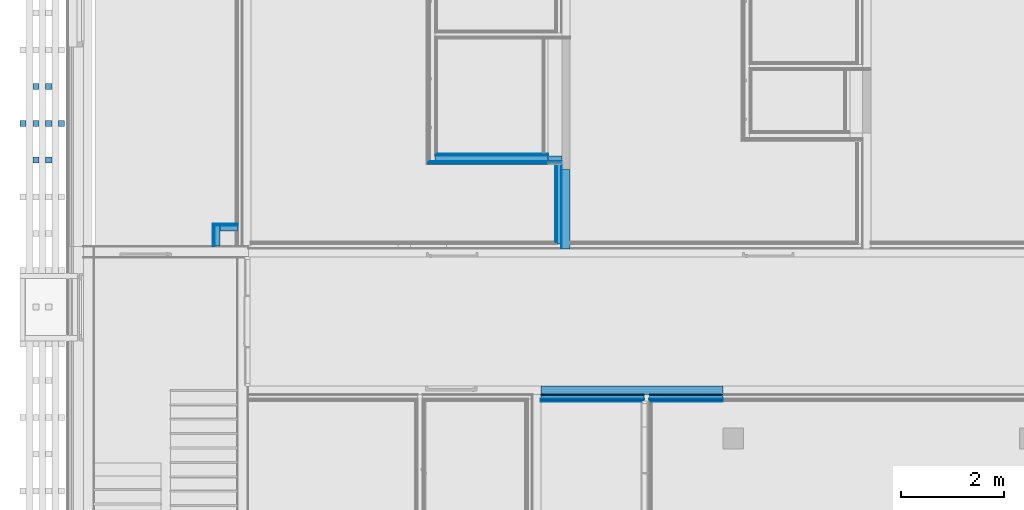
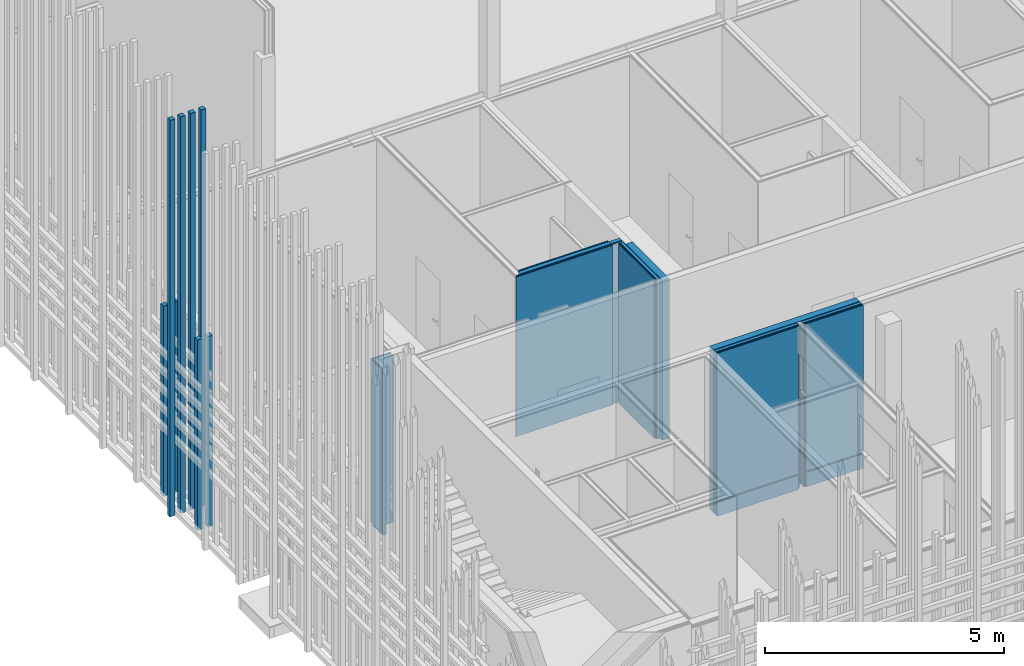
# One storey, part 158 of 260: 33 building element parts, 3 discrete accessories, 6 elements without a shape of their own.
"""IFC2X3 building model written with IfcOpenShell, lengths in millimetres."""

from ifc_helpers import new_model, entity, si_unit, converted_unit, derived_unit, money_unit, direction, frame, origin_with_axes, place, context, subcontext, project, spatial, faceted_brep, material, material_list, type_object, element, aggregate, save


model = new_model("IFC2X3")

# Units and contexts
model_context = context("Model", 3, precision=0.01, world=origin_with_axes(), true_north=direction((0.0, 1.0)))
body_context = subcontext(model_context, "Body", "Model", "MODEL_VIEW")
ifc_project = project(units=[si_unit("LENGTHUNIT", "METRE", prefix="MILLI"), si_unit("AREAUNIT", "SQUARE_METRE"), si_unit("VOLUMEUNIT", "CUBIC_METRE"), converted_unit("PLANEANGLEUNIT", "DEGREE", entity("IfcPlaneAngleMeasure", 0.0174532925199), si_unit("PLANEANGLEUNIT", "RADIAN"), dimensions=[0, 0, 0, 0, 0, 0, 0]), money_unit("EUR"), converted_unit("TIMEUNIT", "Year", entity("IfcTimeMeasure", 31556926.0), si_unit("TIMEUNIT", "SECOND"), dimensions=[0, 0, 1, 0, 0, 0, 0]), si_unit("MASSUNIT", "GRAM", prefix="KILO"), si_unit("THERMODYNAMICTEMPERATUREUNIT", "DEGREE_CELSIUS"), si_unit("LUMINOUSINTENSITYUNIT", "LUMEN"), si_unit("ENERGYUNIT", "JOULE", prefix="MEGA"), derived_unit("THERMALCONDUCTANCEUNIT", [(si_unit("POWERUNIT", "WATT"), 1), (si_unit("LENGTHUNIT", "METRE"), -1), (si_unit("THERMODYNAMICTEMPERATUREUNIT", "KELVIN"), -1)]), derived_unit("SPECIFICHEATCAPACITYUNIT", [(si_unit("ENERGYUNIT", "JOULE"), 1), (si_unit("MASSUNIT", "GRAM", prefix="KILO"), -1), (si_unit("THERMODYNAMICTEMPERATUREUNIT", "KELVIN"), -1)]), derived_unit("MASSDENSITYUNIT", [(si_unit("MASSUNIT", "GRAM", prefix="KILO"), 1), (si_unit("VOLUMEUNIT", "CUBIC_METRE"), -1)])], contexts=[model_context])

# Site, building, storey
site_placement = place(None, origin_with_axes())
site = spatial("IfcSite", under=ifc_project, at=site_placement, Name="Kolde pst 67a", CompositionType="ELEMENT")
building_placement = place(site_placement, origin_with_axes())
building = spatial("IfcBuilding", under=site, at=building_placement, Name="Riigigümnaasium", CompositionType="ELEMENT")
storey_placement = place(building_placement, origin_with_axes())
storey = spatial("IfcBuildingStorey", under=building, at=storey_placement, Name="1. korrus", CompositionType="ELEMENT", Elevation=0.0)

# Discrete accessories
ifc_material_1 = material(Name="_VÄLISVIIMISTLUS - sõrmjätkatud puitprussid 120x115mm, liitekohad vähemärgatavad, Platowood sõrmjätkatud kuusk või samaväärne; eeltöödeldud tuletõkkevõõbaga, tuletundlikkus B-s1, d0, Woodsafe Exterior WFX™ või samaväärne; kinnitused vastavalt EK osale")
ifc_material_list_1 = material_list([ifc_material_1, ifc_material_1, ifc_material_1, ifc_material_1])
discrete_accessory_type_1 = type_object("IfcDiscreteAccessoryType", Name="120 4-ne vertikaalne 870 x 115")
discrete_accessory_placement = place(storey_placement, frame((-310.003213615, 61962.2222772, 280.0), z_axis=(0.0, 0.0, 1.0), x_axis=(0.999999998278, -5.86859191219e-05, 0.0)))
element("IfcDiscreteAccessory", 1, at=discrete_accessory_placement, inside=storey, type_object=discrete_accessory_type_1, material=ifc_material_list_1, Name="Päikesevarjestus", context=body_context, shape_type="Brep", body=[
    faceted_brep([(-133.0, -70.0, 0.0), (-13.0, -70.0, 0.0), (-13.0, -70.0, 10140.0), (-133.0, -70.0, 10140.0), (-133.0, 45.0, 0.0), (-13.0, 45.0, 0.0), (-13.0, 45.0, 10140.0), (-133.0, 45.0, 10140.0)], [[[0, 1, 2, 3]], [[0, 4, 5, 1]], [[1, 5, 6, 2]], [[3, 2, 6, 7]], [[4, 0, 3, 7]], [[5, 4, 7, 6]]]),
    faceted_brep([(-383.0, -70.0, 0.0), (-263.0, -70.0, 0.0), (-263.0, -70.0, 10140.0), (-383.0, -70.0, 10140.0), (-383.0, 45.0, 0.0), (-263.0, 45.0, 0.0), (-263.0, 45.0, 10140.0), (-383.0, 45.0, 10140.0)], [[[0, 1, 2, 3]], [[0, 4, 5, 1]], [[1, 5, 6, 2]], [[3, 2, 6, 7]], [[4, 0, 3, 7]], [[5, 4, 7, 6]]]),
    faceted_brep([(-633.0, -70.0, 0.0), (-513.0, -70.0, 0.0), (-513.0, -70.0, 10140.0), (-633.0, -70.0, 10140.0), (-633.0, 45.0, 0.0), (-513.0, 45.0, 0.0), (-513.0, 45.0, 10140.0), (-633.0, 45.0, 10140.0)], [[[0, 1, 2, 3]], [[0, 4, 5, 1]], [[1, 5, 6, 2]], [[3, 2, 6, 7]], [[4, 0, 3, 7]], [[5, 4, 7, 6]]]),
    faceted_brep([(-883.0, -70.0, 0.0), (-763.0, -70.0, 0.0), (-763.0, -70.0, 10140.0), (-883.0, -70.0, 10140.0), (-883.0, 45.0, 0.0), (-763.0, 45.0, 0.0), (-763.0, 45.0, 10140.0), (-883.0, 45.0, 10140.0)], [[[0, 1, 2, 3]], [[0, 4, 5, 1]], [[1, 5, 6, 2]], [[3, 2, 6, 7]], [[4, 0, 3, 7]], [[5, 4, 7, 6]]]),
])
ifc_material_list_2 = material_list([ifc_material_1, ifc_material_1])
discrete_accessory_type_2 = type_object("IfcDiscreteAccessoryType", Name="1+paiksekaitse 3 370 x 115")
for number, where, z_axis, x_axis in (
    (2, (-1290.00746728, 62604.7585658, 280.0), (0.0, 0.0, 1.0), (1.0, 0.0, 0.0)),
    (3, (-1290.00746728, 61174.7585658, 280.0), (0.0, 0.0, 1.0), (1.0, 0.0, 0.0)),
):
    element("IfcDiscreteAccessory", number, at=place(storey_placement, frame(where, z_axis=z_axis, x_axis=x_axis)), inside=storey, type_object=discrete_accessory_type_2, material=ifc_material_list_2, Name="Päikesevarjestus", context=body_context, shape_type="Brep", body=[
        faceted_brep([(467.0, 117.5, 0.0), (347.0, 117.5, 0.0), (347.0, 117.5, 4870.00014213), (467.0, 117.5, 4870.00014213), (467.0, 2.5, 0.0), (347.0, 2.5, 0.0), (347.0, 2.5, 4870.00014213), (467.0, 2.5, 4870.00014213)], [[[0, 1, 2, 3]], [[0, 4, 5, 1]], [[1, 5, 6, 2]], [[3, 2, 6, 7]], [[4, 0, 3, 7]], [[5, 4, 7, 6]]]),
        faceted_brep([(717.0, 117.5, 0.0), (597.0, 117.5, 0.0), (597.0, 117.5, 4870.00014213), (717.0, 117.5, 4870.00014213), (717.0, 2.5, 0.0), (597.0, 2.5, 0.0), (597.0, 2.5, 4870.00014213), (717.0, 2.5, 4870.00014213)], [[[0, 1, 2, 3]], [[0, 4, 5, 1]], [[1, 5, 6, 2]], [[3, 2, 6, 7]], [[4, 0, 3, 7]], [[5, 4, 7, 6]]]),
    ])

# Wall, building element parts
wall_type_1 = type_object("IfcWallType", Name="SS-PK-10/2_vill100+dold+plaat 200", PredefinedType="NOTDEFINED")
wall_1_placement = place(storey_placement, frame((6923.47581967, 61355.5403605, 0.0), z_axis=(0.0, 0.0, 1.0), x_axis=(1.0, 0.0, 0.0)))
wall_1 = element("IfcWall", 4, at=wall_1_placement, inside=storey, type_object=wall_type_1, Name="Sisesein")
ifc_material_2 = material(Name="_VIIMISTLUSKIHT - viimistlus vastavalt SA osale")
building_element_part_1_placement = place(wall_1_placement, origin_with_axes())
building_element_part_1 = element("IfcBuildingElementPart", 5, at=building_element_part_1_placement, material=ifc_material_2, Name="_VIIMISTLUSKIHT - viimistlus vastavalt SA osale", context=body_context, shape_type="Brep", body=[
    faceted_brep([(0.0, 0.0, 4080.0), (2158.01244268, 0.0, 4080.0), (2158.01244268, 0.0, 3340.0), (2067.01244268, 0.0, 3340.0), (2067.01244268, 0.0, 0.0), (0.0, 0.0, 0.0), (2158.01244268, -15.0, 4080.0), (-2.5322979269e-06, -15.0, 4080.0), (2158.01244268, -15.0, 3340.0), (2067.01244268, -15.0, 3340.0), (2067.01244268, -15.0, 0.0), (-2.5322979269e-06, -15.0, 0.0)], [[[0, 1, 2, 3, 4, 5]], [[6, 1, 0, 7]], [[1, 6, 8, 2]], [[2, 8, 9, 3]], [[10, 4, 3, 9]], [[5, 4, 10, 11]], [[7, 0, 5, 11]], [[6, 7, 11, 10, 9, 8]]]),
])
ifc_material_3 = material(Name="_PLAATMATERJAL - kipsplaat veekindel")
building_element_part_2_placement = place(wall_1_placement, origin_with_axes())
building_element_part_2 = element("IfcBuildingElementPart", 6, at=building_element_part_2_placement, material=ifc_material_3, Name="_PLAATMATERJAL - kipsplaat veekindel", context=body_context, shape_type="Brep", body=[
    faceted_brep([(-15.0000025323, -15.0, 4080.0), (2158.01244268, -15.0, 4080.0), (2158.01244268, -15.0, 3340.0), (2079.51244268, -15.0, 3340.0), (2079.51244268, -15.0, 0.0), (-15.0000025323, -15.0, 0.0), (2158.01244268, -27.5, 4080.0), (-15.0000046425, -27.5, 4080.0), (2158.01244268, -27.5, 3340.0), (2079.51244268, -27.5, 3340.0), (2079.51244268, -27.5, 0.0), (-15.0000046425, -27.5, 0.0)], [[[0, 1, 2, 3, 4, 5]], [[6, 1, 0, 7]], [[1, 6, 8, 2]], [[2, 8, 9, 3]], [[10, 4, 3, 9]], [[5, 4, 10, 11]], [[7, 0, 5, 11]], [[6, 7, 11, 10, 9, 8]]]),
])
building_element_part_3_placement = place(wall_1_placement, origin_with_axes())
building_element_part_3 = element("IfcBuildingElementPart", 7, at=building_element_part_3_placement, material=ifc_material_3, Name="_PLAATMATERJAL - kipsplaat veekindel", context=body_context, shape_type="Brep", body=[
    faceted_brep([(-27.5000046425, -27.5, 4080.0), (2158.01244268, -27.5, 4080.0), (2158.01244268, -27.5, 3340.0), (2092.01244268, -27.5, 3340.0), (2092.01244268, -27.5, 0.0), (-27.5000046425, -27.5, 0.0), (2158.01244268, -40.0, 4080.0), (-27.5000067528, -40.0, 4080.0), (2158.01244268, -40.0, 3340.0), (2092.01244268, -40.0, 3340.0), (2092.01244268, -40.0, 0.0), (-27.5000067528, -40.0, 0.0)], [[[0, 1, 2, 3, 4, 5]], [[6, 1, 0, 7]], [[1, 6, 8, 2]], [[9, 3, 2, 8]], [[10, 4, 3, 9]], [[5, 4, 10, 11]], [[7, 0, 5, 11]], [[6, 7, 11, 10, 9, 8]]]),
])
ifc_material_4 = material(Name="_KARKASS - puitpruss 100x50mm vertikaalne, samm 600mm, vahel mineraalvill, helineeldetegur αw = 1.0, ISOVER ACOUSTIC 100mm või samaväärne")
building_element_part_4_placement = place(wall_1_placement, origin_with_axes())
building_element_part_4 = element("IfcBuildingElementPart", 8, at=building_element_part_4_placement, material=ifc_material_4, Name="_KARKASS - puitpruss 100x50mm vertikaalne, samm 600mm, vahel mineraalvill, helineeldetegur αw = 1.0, ISOVER ACOUSTIC 100mm või samaväärne", context=body_context, shape_type="Brep", body=[
    faceted_brep([(-40.0000067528, -40.0, 4080.0), (2158.01244268, -40.0, 4080.0), (2158.01244268, -40.0, 0.0), (-40.0000067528, -40.0, 0.0), (2158.01244268, -140.0, 4080.0), (-40.0000236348, -140.0, 4080.0), (2158.01244268, -140.0, 0.0), (-40.0000236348, -140.0, 0.0)], [[[0, 1, 2, 3]], [[4, 1, 0, 5]], [[1, 4, 6, 2]], [[3, 2, 6, 7]], [[5, 0, 3, 7]], [[4, 5, 7, 6]]]),
])
ifc_material_5 = material(Name="_PLAATMATERJAL - tuletõkkekipsplaat, Knauf Red GKF või samaväärne")
building_element_part_5_placement = place(wall_1_placement, origin_with_axes())
building_element_part_5 = element("IfcBuildingElementPart", 9, at=building_element_part_5_placement, material=ifc_material_5, Name="_PLAATMATERJAL - tuletõkkekipsplaat, Knauf Red GKF või samaväärne", context=body_context, shape_type="Brep", body=[
    faceted_brep([(-140.000023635, -140.0, 4080.0), (2158.01244268, -140.0, 4080.0), (2158.01244268, -140.0, 0.0), (-140.000023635, -140.0, 0.0), (2158.01244268, -155.0, 4080.0), (-140.000026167, -155.0, 4080.0), (2158.01244268, -155.0, 0.0), (-140.000026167, -155.0, 0.0)], [[[0, 1, 2, 3]], [[4, 1, 0, 5]], [[1, 4, 6, 2]], [[3, 2, 6, 7]], [[5, 0, 3, 7]], [[4, 5, 7, 6]]]),
])
building_element_part_6_placement = place(wall_1_placement, origin_with_axes())
building_element_part_6 = element("IfcBuildingElementPart", 10, at=building_element_part_6_placement, material=ifc_material_5, Name="_PLAATMATERJAL - tuletõkkekipsplaat, Knauf Red GKF või samaväärne", context=body_context, shape_type="Brep", body=[
    faceted_brep([(-155.000026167, -155.0, 4080.0), (2158.01244268, -155.0, 4080.0), (2158.01244268, -155.0, 0.0), (-155.000026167, -155.0, 0.0), (2158.01244268, -170.0, 4080.0), (-155.000028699, -170.0, 4080.0), (2158.01244268, -170.0, 0.0), (-155.000028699, -170.0, 0.0)], [[[0, 1, 2, 3]], [[4, 1, 0, 5]], [[1, 4, 6, 2]], [[3, 2, 6, 7]], [[5, 0, 3, 7]], [[4, 5, 7, 6]]]),
])
ifc_material_6 = material(Name="_KARKASS - eriprofiilkinnitus vastavalt sisemisele plaatviimistlusele")
building_element_part_7_placement = place(wall_1_placement, origin_with_axes())
building_element_part_7 = element("IfcBuildingElementPart", 11, at=building_element_part_7_placement, material=ifc_material_6, Name="_KARKASS - eriprofiilkinnitus vastavalt sisemisele plaatviimistlusele", context=body_context, shape_type="Brep", body=[
    faceted_brep([(-170.000028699, -170.0, 4080.0), (2158.01244268, -170.0, 4080.0), (2158.01244268, -170.0, 0.0), (-170.000028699, -170.0, 0.0), (2158.01244268, -180.0, 4080.0), (-170.000030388, -180.0, 4080.0), (2158.01244268, -180.0, 0.0), (-170.000030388, -180.0, 0.0)], [[[0, 1, 2, 3]], [[4, 1, 0, 5]], [[1, 4, 6, 2]], [[3, 2, 6, 7]], [[5, 0, 3, 7]], [[4, 5, 7, 6]]]),
])
building_element_part_8_placement = place(wall_1_placement, origin_with_axes())
building_element_part_8 = element("IfcBuildingElementPart", 12, at=building_element_part_8_placement, material=ifc_material_2, Name="_VIIMISTLUSKIHT - viimistlus vastavalt SA osale", context=body_context, shape_type="Brep", body=[
    faceted_brep([(-180.000030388, -180.0, 4080.0), (2158.01244268, -180.0, 4080.0), (2158.01244268, -180.0, 0.0), (-180.000030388, -180.0, 0.0), (2158.01244268, -200.0, 4080.0), (-180.000033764, -200.0, 4080.0), (2158.01244268, -200.0, 0.0), (-180.000033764, -200.0, 0.0)], [[[0, 1, 2, 3]], [[4, 1, 0, 5]], [[1, 4, 6, 2]], [[3, 2, 6, 7]], [[5, 0, 3, 7]], [[4, 5, 7, 6]]]),
])
aggregate(wall_1, [building_element_part_1, building_element_part_2, building_element_part_3, building_element_part_4, building_element_part_5, building_element_part_6, building_element_part_7, building_element_part_8])

wall_type_2 = type_object("IfcWallType", Name="SS-CLT-16/14_vill75+dold 52 dB 310", PredefinedType="NOTDEFINED")
wall_2_placement = place(storey_placement, frame((8939.99428596, 56839.9979478, 0.0), z_axis=(0.0, 0.0, 1.0), x_axis=(1.0, 0.0, 0.0)))
wall_2 = element("IfcWall", 13, at=wall_2_placement, inside=storey, type_object=wall_type_2, Name="Sisesein")
ifc_material_7 = material(Name="_KANDETARIND - CLT ristkihtliimpuit vastavalt EK osale, CLT paigaldusvuugid teibitakse ROTHOBLAAS teibiga")
building_element_part_9_placement = place(wall_2_placement, origin_with_axes())
building_element_part_9 = element("IfcBuildingElementPart", 14, at=building_element_part_9_placement, material=ifc_material_7, Name="_KANDETARIND - CLT ristkihtliimpuit vastavalt EK osale, CLT paigaldusvuugid teibitakse ROTHOBLAAS teibiga", context=body_context, shape_type="Brep", body=[
    faceted_brep([(0.0, 0.0, 4170.0), (0.0, -160.0, 4170.0), (3539.67592501, -160.0, 4170.0), (3539.67592501, 0.0, 4170.0), (0.0, 0.0, 0.0), (0.0, -160.0, 0.0), (3539.67592501, -160.0, 0.0), (3539.67592501, 0.0, 0.0)], [[[0, 1, 2, 3]], [[1, 0, 4, 5]], [[2, 1, 5, 6]], [[2, 6, 7, 3]], [[0, 3, 7, 4]], [[6, 5, 4, 7]]]),
])
ifc_material_8 = material(Name="_ÕHKVAHE")
building_element_part_10_placement = place(wall_2_placement, origin_with_axes())
building_element_part_10 = element("IfcBuildingElementPart", 15, at=building_element_part_10_placement, material=ifc_material_8, Name="_ÕHKVAHE", context=body_context, shape_type="Brep", body=[
    faceted_brep([(0.0, -160.0, 370.0), (1950.02558864, -160.0, 370.0), (1950.02558864, -160.0, 400.0), (0.0, -160.0, 400.0), (0.0, -160.0, 4170.0), (2010.02553787, -160.0, 4170.0), (2010.02553787, -160.0, 0.0), (0.0, -160.0, 0.0), (0.0, -175.0, 370.0), (1950.02558864, -175.0, 370.0), (1950.02558864, -175.0, 400.0), (0.0, -175.0, 400.0), (0.0, -175.0, 4170.0), (2010.02306414, -175.0, 4170.0), (2010.02306414, -175.0, 0.0), (0.0, -175.0, 0.0)], [[[0, 1, 2, 3, 4, 5, 6, 7]], [[1, 0, 8, 9]], [[2, 1, 9, 10]], [[3, 2, 10, 11]], [[3, 11, 12, 4]], [[13, 5, 4, 12]], [[5, 13, 14, 6]], [[6, 14, 15, 7]], [[8, 0, 7, 15]], [[9, 8, 15, 14, 13, 12, 11, 10]]]),
    faceted_brep([(3539.67592501, -175.0, 400.0), (3539.67592501, -160.0, 400.0), (3539.67592501, -160.0, 4170.0), (3539.67592501, -175.0, 4170.0), (2168.62705271, -160.0, 400.0), (2168.62705271, -175.0, 400.0), (2168.62705271, -160.0, 370.0), (3539.67592501, -160.0, 370.0), (3539.67592501, -160.0, 0.0), (2110.02553923, -160.0, 0.0), (2110.02553923, -160.0, 4170.0), (2110.0230655, -175.0, 4170.0), (2110.0230655, -175.0, 0.0), (3539.67592501, -175.0, 0.0), (3539.67592501, -175.0, 370.0), (2168.62705271, -175.0, 370.0)], [[[0, 1, 2, 3]], [[4, 1, 0, 5]], [[6, 7, 8, 9, 10, 2, 1, 4]], [[3, 2, 10, 11]], [[5, 0, 3, 11, 12, 13, 14, 15]], [[6, 4, 5, 15]], [[14, 7, 6, 15]], [[7, 14, 13, 8]], [[12, 9, 8, 13]], [[11, 10, 9, 12]]]),
])
ifc_material_9 = material(Name="_KARKASS - metallkarkass CW 75/50/06 ja UW 75/40/06, samm 600, vahel mineraalvill, helineeldetegur αw = 1.0,  ISOVER ACOUSTIC 75mm või samaväärne")
building_element_part_11_placement = place(wall_2_placement, origin_with_axes())
building_element_part_11 = element("IfcBuildingElementPart", 16, at=building_element_part_11_placement, material=ifc_material_9, Name="_KARKASS - metallkarkass CW 75/50/06 ja UW 75/40/06, samm 600, vahel mineraalvill, helineeldetegur αw = 1.0,  ISOVER ACOUSTIC 75mm või samaväärne", context=body_context, shape_type="Brep", body=[
    faceted_brep([(0.0, -175.0, 370.0), (1950.02558864, -175.0, 370.0), (1950.02558864, -175.0, 400.0), (0.0, -175.0, 400.0), (0.0, -175.0, 4170.0), (2010.02306414, -175.0, 4170.0), (2010.02306414, -175.0, 0.0), (0.0, -175.0, 0.0), (0.0, -250.0, 370.0), (1950.02558864, -250.0, 370.0), (1950.02558864, -250.0, 400.0), (0.0, -250.0, 400.0), (0.0, -250.0, 4170.0), (2010.01069547, -250.0, 4170.0), (2010.01069547, -250.0, 0.0), (0.0, -250.0, 0.0)], [[[0, 1, 2, 3, 4, 5, 6, 7]], [[1, 0, 8, 9]], [[2, 1, 9, 10]], [[3, 2, 10, 11]], [[3, 11, 12, 4]], [[13, 5, 4, 12]], [[5, 13, 14, 6]], [[6, 14, 15, 7]], [[8, 0, 7, 15]], [[9, 8, 15, 14, 13, 12, 11, 10]]]),
    faceted_brep([(3539.67592501, -250.0, 400.0), (3539.67592501, -175.0, 400.0), (3539.67592501, -175.0, 4170.0), (3539.67592501, -250.0, 4170.0), (2168.62705271, -175.0, 400.0), (2168.62705271, -250.0, 400.0), (2168.62705271, -175.0, 370.0), (3539.67592501, -175.0, 370.0), (3539.67592501, -175.0, 0.0), (2110.0230655, -175.0, 0.0), (2110.0230655, -175.0, 4170.0), (2110.01069683, -250.0, 4170.0), (2110.01069683, -250.0, 0.0), (3539.67592501, -250.0, 0.0), (3539.67592501, -250.0, 370.0), (2168.62705271, -250.0, 370.0)], [[[0, 1, 2, 3]], [[4, 1, 0, 5]], [[6, 7, 8, 9, 10, 2, 1, 4]], [[3, 2, 10, 11]], [[5, 0, 3, 11, 12, 13, 14, 15]], [[6, 4, 5, 15]], [[14, 7, 6, 15]], [[7, 14, 13, 8]], [[12, 9, 8, 13]], [[11, 10, 9, 12]]]),
])
ifc_material_10 = material(Name="_PLAATMATERJAL - OSB3 plaat")
building_element_part_12_placement = place(wall_2_placement, origin_with_axes())
building_element_part_12 = element("IfcBuildingElementPart", 17, at=building_element_part_12_placement, material=ifc_material_10, Name="_PLAATMATERJAL - OSB3 plaat", context=body_context, shape_type="Brep", body=[
    faceted_brep([(0.0, -250.0, 370.0), (1950.02558864, -250.0, 370.0), (1950.02558864, -250.0, 400.0), (0.0, -250.0, 400.0), (0.0, -250.0, 4170.0), (2010.01069547, -250.0, 4170.0), (2010.01069547, -250.0, 0.0), (0.0, -250.0, 0.0), (0.0, -260.0, 370.0), (1950.02558864, -260.0, 370.0), (1950.02558864, -260.0, 400.0), (0.0, -260.0, 400.0), (0.0, -260.0, 4170.0), (2010.00904631, -260.0, 4170.0), (2010.00904631, -260.0, 0.0), (0.0, -260.0, 0.0)], [[[0, 1, 2, 3, 4, 5, 6, 7]], [[1, 0, 8, 9]], [[2, 1, 9, 10]], [[3, 2, 10, 11]], [[3, 11, 12, 4]], [[13, 5, 4, 12]], [[5, 13, 14, 6]], [[6, 14, 15, 7]], [[8, 0, 7, 15]], [[9, 8, 15, 14, 13, 12, 11, 10]]]),
    faceted_brep([(3539.67592501, -260.0, 400.0), (3539.67592501, -250.0, 400.0), (3539.67592501, -250.0, 4170.0), (3539.67592501, -260.0, 4170.0), (2168.62705271, -250.0, 400.0), (2168.62705271, -260.0, 400.0), (2168.62705271, -250.0, 370.0), (3539.67592501, -250.0, 370.0), (3539.67592501, -250.0, 0.0), (2110.01069683, -250.0, 0.0), (2110.01069683, -250.0, 4170.0), (2110.00904767, -260.0, 4170.0), (2110.00904767, -260.0, 0.0), (3539.67592501, -260.0, 0.0), (3539.67592501, -260.0, 370.0), (2168.62705271, -260.0, 370.0)], [[[0, 1, 2, 3]], [[4, 1, 0, 5]], [[6, 7, 8, 9, 10, 2, 1, 4]], [[3, 2, 10, 11]], [[5, 0, 3, 11, 12, 13, 14, 15]], [[6, 4, 5, 15]], [[14, 7, 6, 15]], [[7, 14, 13, 8]], [[12, 9, 8, 13]], [[11, 10, 9, 12]]]),
])
building_element_part_13_placement = place(wall_2_placement, origin_with_axes())
building_element_part_13 = element("IfcBuildingElementPart", 18, at=building_element_part_13_placement, material=ifc_material_5, Name="_PLAATMATERJAL - tuletõkkekipsplaat, Knauf Red GKF või samaväärne", context=body_context, shape_type="Brep", body=[
    faceted_brep([(0.0, -260.0, 370.0), (1950.02558864, -260.0, 370.0), (1950.02558864, -260.0, 400.0), (0.0, -260.0, 400.0), (0.0, -260.0, 4170.0), (2010.00904631, -260.0, 4170.0), (2010.00904631, -260.0, 0.0), (0.0, -260.0, 0.0), (0.0, -275.0, 370.0), (1950.02558864, -275.0, 370.0), (1950.02558864, -275.0, 400.0), (0.0, -275.0, 400.0), (0.0, -275.0, 4170.0), (2010.00657258, -275.0, 4170.0), (2010.00657258, -275.0, 0.0), (0.0, -275.0, 0.0)], [[[0, 1, 2, 3, 4, 5, 6, 7]], [[1, 0, 8, 9]], [[2, 1, 9, 10]], [[3, 2, 10, 11]], [[3, 11, 12, 4]], [[13, 5, 4, 12]], [[5, 13, 14, 6]], [[6, 14, 15, 7]], [[8, 0, 7, 15]], [[9, 8, 15, 14, 13, 12, 11, 10]]]),
    faceted_brep([(3539.67592501, -275.0, 400.0), (3539.67592501, -260.0, 400.0), (3539.67592501, -260.0, 4170.0), (3539.67592501, -275.0, 4170.0), (2168.62705271, -260.0, 400.0), (2168.62705271, -275.0, 400.0), (2168.62705271, -260.0, 370.0), (3539.67592501, -260.0, 370.0), (3539.67592501, -260.0, 0.0), (2110.00904767, -260.0, 0.0), (2110.00904767, -260.0, 4170.0), (2110.00657394, -275.0, 4170.0), (2110.00657394, -275.0, 0.0), (3539.67592501, -275.0, 0.0), (3539.67592501, -275.0, 370.0), (2168.62705271, -275.0, 370.0)], [[[0, 1, 2, 3]], [[4, 1, 0, 5]], [[6, 7, 8, 9, 10, 2, 1, 4]], [[3, 2, 10, 11]], [[5, 0, 3, 11, 12, 13, 14, 15]], [[6, 4, 5, 15]], [[14, 7, 6, 15]], [[7, 14, 13, 8]], [[12, 9, 8, 13]], [[11, 10, 9, 12]]]),
])
building_element_part_14_placement = place(wall_2_placement, origin_with_axes())
building_element_part_14 = element("IfcBuildingElementPart", 19, at=building_element_part_14_placement, material=ifc_material_5, Name="_PLAATMATERJAL - tuletõkkekipsplaat, Knauf Red GKF või samaväärne", context=body_context, shape_type="Brep", body=[
    faceted_brep([(0.0, -275.0, 370.0), (1950.02558864, -275.0, 370.0), (1950.02558864, -275.0, 400.0), (0.0, -275.0, 400.0), (0.0, -275.0, 4170.0), (1995.00657238, -275.0, 4170.0), (1995.00657238, -275.0, 0.0), (0.0, -275.0, 0.0), (0.0, -290.0, 370.0), (1950.02558864, -290.0, 370.0), (1950.02558864, -290.0, 400.0), (0.0, -290.0, 400.0), (0.0, -290.0, 4170.0), (1995.00409864, -290.0, 4170.0), (1995.00409864, -290.0, 0.0), (0.0, -290.0, 0.0)], [[[0, 1, 2, 3, 4, 5, 6, 7]], [[1, 0, 8, 9]], [[2, 1, 9, 10]], [[3, 2, 10, 11]], [[3, 11, 12, 4]], [[13, 5, 4, 12]], [[5, 13, 14, 6]], [[6, 14, 15, 7]], [[8, 0, 7, 15]], [[9, 8, 15, 14, 13, 12, 11, 10]]]),
    faceted_brep([(3539.67592501, -290.0, 400.0), (3539.67592501, -275.0, 400.0), (3539.67592501, -275.0, 4170.0), (3539.67592501, -290.0, 4170.0), (2168.62705271, -275.0, 400.0), (2168.62705271, -290.0, 400.0), (2168.62705271, -275.0, 370.0), (3539.67592501, -275.0, 370.0), (3539.67592501, -275.0, 0.0), (2125.00657414, -275.0, 0.0), (2125.00657414, -275.0, 4170.0), (2125.00410041, -290.0, 4170.0), (2125.00410041, -290.0, 0.0), (3539.67592501, -290.0, 0.0), (3539.67592501, -290.0, 370.0), (2168.62705271, -290.0, 370.0)], [[[0, 1, 2, 3]], [[4, 1, 0, 5]], [[6, 7, 8, 9, 10, 2, 1, 4]], [[3, 2, 10, 11]], [[5, 0, 3, 11, 12, 13, 14, 15]], [[6, 4, 5, 15]], [[14, 7, 6, 15]], [[7, 14, 13, 8]], [[12, 9, 8, 13]], [[11, 10, 9, 12]]]),
])
building_element_part_15_placement = place(wall_2_placement, origin_with_axes())
building_element_part_15 = element("IfcBuildingElementPart", 20, at=building_element_part_15_placement, material=ifc_material_6, Name="_KARKASS - eriprofiilkinnitus vastavalt sisemisele plaatviimistlusele", context=body_context, shape_type="Brep", body=[
    faceted_brep([(0.0, -290.0, 370.0), (1950.02558864, -290.0, 370.0), (1950.02558864, -290.0, 400.0), (0.0, -290.0, 400.0), (0.0, -290.0, 4170.0), (1980.00409844, -290.0, 4170.0), (1980.00409844, -290.0, 0.0), (0.0, -290.0, 0.0), (0.0, -300.0, 370.0), (1950.02558864, -300.0, 370.0), (1950.02558864, -300.0, 400.0), (0.0, -300.0, 400.0), (0.0, -300.0, 4170.0), (1980.00244928, -300.0, 4170.0), (1980.00244928, -300.0, 0.0), (0.0, -300.0, 0.0)], [[[0, 1, 2, 3, 4, 5, 6, 7]], [[1, 0, 8, 9]], [[2, 1, 9, 10]], [[3, 2, 10, 11]], [[3, 11, 12, 4]], [[13, 5, 4, 12]], [[5, 13, 14, 6]], [[6, 14, 15, 7]], [[8, 0, 7, 15]], [[9, 8, 15, 14, 13, 12, 11, 10]]]),
    faceted_brep([(3539.67592501, -300.0, 400.0), (3539.67592501, -290.0, 400.0), (3539.67592501, -290.0, 4170.0), (3539.67592501, -300.0, 4170.0), (2168.62705271, -290.0, 400.0), (2168.62705271, -300.0, 400.0), (2168.62705271, -290.0, 370.0), (3539.67592501, -290.0, 370.0), (3539.67592501, -290.0, 0.0), (2140.00410062, -290.0, 0.0), (2140.00410062, -290.0, 4170.0), (2140.00245146, -300.0, 4170.0), (2140.00245146, -300.0, 0.0), (3539.67592501, -300.0, 0.0), (3539.67592501, -300.0, 370.0), (2168.62705271, -300.0, 370.0)], [[[0, 1, 2, 3]], [[4, 1, 0, 5]], [[6, 7, 8, 9, 10, 2, 1, 4]], [[3, 2, 10, 11]], [[5, 0, 3, 11, 12, 13, 14, 15]], [[6, 4, 5, 15]], [[14, 7, 6, 15]], [[7, 14, 13, 8]], [[12, 9, 8, 13]], [[11, 10, 9, 12]]]),
])
ifc_material_11 = material(Name="_VIIMISTLUSKIHT - Dold plaat vastavalt SA osale")
building_element_part_16_placement = place(wall_2_placement, origin_with_axes())
building_element_part_16 = element("IfcBuildingElementPart", 21, at=building_element_part_16_placement, material=ifc_material_11, Name="_VIIMISTLUSKIHT - Dold plaat vastavalt SA osale", context=body_context, shape_type="Brep", body=[
    faceted_brep([(0.0, -300.0, 370.0), (1950.02558864, -300.0, 370.0), (1950.02558864, -300.0, 400.0), (0.0, -300.0, 400.0), (0.0, -300.0, 4170.0), (1970.00244915, -300.0, 4170.0), (1970.00244915, -300.0, 0.0), (0.0, -300.0, 0.0), (0.0, -310.0, 370.0), (1950.02558864, -310.0, 370.0), (1950.02558864, -310.0, 400.0), (0.0, -310.0, 400.0), (0.0, -310.0, 4170.0), (1970.00079999, -310.0, 4170.0), (1970.00079999, -310.0, 0.0), (0.0, -310.0, 0.0)], [[[0, 1, 2, 3, 4, 5, 6, 7]], [[1, 0, 8, 9]], [[2, 1, 9, 10]], [[3, 2, 10, 11]], [[3, 11, 12, 4]], [[13, 5, 4, 12]], [[5, 13, 14, 6]], [[6, 14, 15, 7]], [[8, 0, 7, 15]], [[9, 8, 15, 14, 13, 12, 11, 10]]]),
    faceted_brep([(3539.67592501, -310.0, 400.0), (3539.67592501, -300.0, 400.0), (3539.67592501, -300.0, 4170.0), (3539.67592501, -310.0, 4170.0), (2168.62705271, -300.0, 400.0), (2168.62705271, -310.0, 400.0), (2168.62705271, -300.0, 370.0), (3539.67592501, -300.0, 370.0), (3539.67592501, -300.0, 0.0), (2150.0024516, -300.0, 0.0), (2150.0024516, -300.0, 4170.0), (2150.00080244, -310.0, 4170.0), (2150.00080244, -310.0, 0.0), (3539.67592501, -310.0, 0.0), (3539.67592501, -310.0, 370.0), (2168.62705271, -310.0, 370.0)], [[[0, 1, 2, 3]], [[4, 1, 0, 5]], [[6, 7, 8, 9, 10, 2, 1, 4]], [[3, 2, 10, 11]], [[5, 0, 3, 11, 12, 13, 14, 15]], [[6, 4, 5, 15]], [[14, 7, 6, 15]], [[7, 14, 13, 8]], [[12, 9, 8, 13]], [[11, 10, 9, 12]]]),
])
aggregate(wall_2, [building_element_part_9, building_element_part_10, building_element_part_11, building_element_part_12, building_element_part_13, building_element_part_14, building_element_part_15, building_element_part_16])

wall_type_3 = type_object("IfcWallType", Name="SS-CLT-16/3_vill+plaat märgruumid 285", PredefinedType="NOTDEFINED")
wall_3_placement = place(storey_placement, frame((9506.48821835, 61155.5403605, 0.0), z_axis=(0.0, 0.0, 1.0), x_axis=(0.0, -1.0, 0.0)))
wall_3 = element("IfcWall", 22, at=wall_3_placement, inside=storey, type_object=wall_type_3, Name="Sisesein")
building_element_part_17_placement = place(wall_3_placement, origin_with_axes())
building_element_part_17 = element("IfcBuildingElementPart", 23, at=building_element_part_17_placement, material=ifc_material_7, Name="_KANDETARIND - CLT ristkihtliimpuit vastavalt EK osale, CLT paigaldusvuugid teibitakse ROTHOBLAAS teibiga", context=body_context, shape_type="Brep", body=[
    faceted_brep([(100.0, -160.0, 4080.0), (100.0, 0.0, 4080.0), (100.0, 0.0, 0.0), (100.0, -160.0, 0.0), (1645.54252841, 0.0, 4080.0), (1645.54252841, -160.0, 4080.0), (1645.5424127, 0.0, 0.0), (1645.5424127, -160.0, 0.0)], [[[0, 1, 2, 3]], [[4, 1, 0, 5]], [[1, 4, 6, 2]], [[7, 3, 2, 6]], [[5, 0, 3, 7]], [[4, 5, 7, 6]]]),
])
building_element_part_18_placement = place(wall_3_placement, origin_with_axes())
building_element_part_18 = element("IfcBuildingElementPart", 24, at=building_element_part_18_placement, material=ifc_material_8, Name="_ÕHKVAHE", context=body_context, shape_type="Brep", body=[
    faceted_brep([(0.0, -170.0, 4080.0), (0.0, -160.0, 4080.0), (0.0, -160.0, 0.0), (0.0, -170.0, 0.0), (1630.5424127, -160.0, 4080.0), (1630.5424127, -170.0, 4080.0), (1630.5424127, -160.0, 0.0), (1630.5424127, -170.0, 0.0)], [[[0, 1, 2, 3]], [[4, 1, 0, 5]], [[1, 4, 6, 2]], [[2, 6, 7, 3]], [[5, 0, 3, 7]], [[4, 5, 7, 6]]]),
])
ifc_material_12 = material(Name="_KARKASS - metallkarkass CW 75/50/06 ja UW 75/40/06, samm 600")
building_element_part_19_placement = place(wall_3_placement, origin_with_axes())
building_element_part_19 = element("IfcBuildingElementPart", 25, at=building_element_part_19_placement, material=ifc_material_12, Name="_KARKASS - metallkarkass CW 75/50/06 ja UW 75/40/06, samm 600", context=body_context, shape_type="Brep", body=[
    faceted_brep([(0.0, -245.0, 4080.0), (0.0, -170.0, 4080.0), (0.0, -170.0, 0.0), (0.0, -245.0, 0.0), (1555.5424127, -170.0, 4080.0), (1555.5424127, -245.0, 4080.0), (1555.5424127, -170.0, 0.0), (1555.5424127, -245.0, 0.0)], [[[0, 1, 2, 3]], [[4, 1, 0, 5]], [[1, 4, 6, 2]], [[6, 7, 3, 2]], [[5, 0, 3, 7]], [[4, 5, 7, 6]]]),
])
building_element_part_20_placement = place(wall_3_placement, origin_with_axes())
building_element_part_20 = element("IfcBuildingElementPart", 26, at=building_element_part_20_placement, material=ifc_material_3, Name="_PLAATMATERJAL - kipsplaat veekindel", context=body_context, shape_type="Brep", body=[
    faceted_brep([(0.0, -257.5, 4080.0), (0.0, -245.0, 4080.0), (0.0, -245.0, 0.0), (0.0, -257.5, 0.0), (1515.5424127, -245.0, 4080.0), (1515.5424127, -257.5, 4080.0), (1515.5424127, -245.0, 0.0), (1515.5424127, -257.5, 0.0)], [[[0, 1, 2, 3]], [[4, 1, 0, 5]], [[1, 4, 6, 2]], [[6, 7, 3, 2]], [[5, 0, 3, 7]], [[4, 5, 7, 6]]]),
])
building_element_part_21_placement = place(wall_3_placement, origin_with_axes())
building_element_part_21 = element("IfcBuildingElementPart", 27, at=building_element_part_21_placement, material=ifc_material_3, Name="_PLAATMATERJAL - kipsplaat veekindel", context=body_context, shape_type="Brep", body=[
    faceted_brep([(0.0, -270.0, 4080.0), (0.0, -257.5, 4080.0), (0.0, -257.5, 0.0), (0.0, -270.0, 0.0), (1515.5424127, -257.5, 4080.0), (1515.5424127, -270.0, 4080.0), (1515.5424127, -257.5, 0.0), (1515.5424127, -270.0, 0.0)], [[[0, 1, 2, 3]], [[4, 1, 0, 5]], [[1, 4, 6, 2]], [[6, 7, 3, 2]], [[5, 0, 3, 7]], [[4, 5, 7, 6]]]),
])
building_element_part_22_placement = place(wall_3_placement, origin_with_axes())
building_element_part_22 = element("IfcBuildingElementPart", 28, at=building_element_part_22_placement, material=ifc_material_2, Name="_VIIMISTLUSKIHT - viimistlus vastavalt SA osale", context=body_context, shape_type="Brep", body=[
    faceted_brep([(0.0, -285.0, 4080.0), (0.0, -270.0, 4080.0), (0.0, -270.0, 0.0), (0.0, -285.0, 0.0), (1505.5424127, -270.0, 4080.0), (1505.5424127, -285.0, 4080.0), (1505.5424127, -270.0, 0.0), (1505.5424127, -285.0, 0.0)], [[[0, 1, 2, 3]], [[4, 1, 0, 5]], [[1, 4, 6, 2]], [[6, 7, 3, 2]], [[5, 0, 3, 7]], [[4, 5, 7, 6]]]),
])
aggregate(wall_3, [building_element_part_17, building_element_part_18, building_element_part_19, building_element_part_20, building_element_part_21, building_element_part_22])

wall_type_4 = type_object("IfcWallType", Name="SS-MK-10/2_šahti sein+plaat 140", PredefinedType="NOTDEFINED")
wall_4_placement = place(storey_placement, frame((2699.93768339, 59559.9979478, -150.0), z_axis=(0.0, 0.0, 1.0), x_axis=(0.0, 1.0, 0.0)))
wall_4 = element("IfcWall", 29, at=wall_4_placement, inside=storey, type_object=wall_type_4, Name="Varisein")
building_element_part_23_placement = place(wall_4_placement, origin_with_axes())
building_element_part_23 = element("IfcBuildingElementPart", 30, at=building_element_part_23_placement, material=ifc_material_2, Name="_VIIMISTLUSKIHT - viimistlus vastavalt SA osale", context=body_context, shape_type="Brep", body=[
    faceted_brep([(0.0, 125.0, 150.0), (440.0, 125.0, 150.0), (440.0, 125.0, 4320.0), (0.0, 125.0, 4320.0), (440.0, 140.0, 150.0), (0.0, 140.0, 150.0), (440.0, 140.0, 4320.0), (0.0, 140.0, 4320.0)], [[[0, 1, 2, 3]], [[4, 1, 0, 5]], [[1, 4, 6, 2]], [[3, 2, 6, 7]], [[5, 0, 3, 7]], [[4, 5, 7, 6]]]),
])
building_element_part_24_placement = place(wall_4_placement, origin_with_axes())
building_element_part_24 = element("IfcBuildingElementPart", 31, at=building_element_part_24_placement, material=ifc_material_3, Name="_PLAATMATERJAL - kipsplaat veekindel", context=body_context, shape_type="Brep", body=[
    faceted_brep([(0.0, 112.5, 150.0), (425.0, 112.5, 150.0), (425.0, 112.5, 4320.0), (0.0, 112.5, 4320.0), (425.0, 125.0, 150.0), (0.0, 125.0, 150.0), (425.0, 125.0, 4320.0), (0.0, 125.0, 4320.0)], [[[0, 1, 2, 3]], [[4, 1, 0, 5]], [[1, 4, 6, 2]], [[3, 2, 6, 7]], [[5, 0, 3, 7]], [[4, 5, 7, 6]]]),
])
building_element_part_25_placement = place(wall_4_placement, origin_with_axes())
building_element_part_25 = element("IfcBuildingElementPart", 32, at=building_element_part_25_placement, material=ifc_material_3, Name="_PLAATMATERJAL - kipsplaat veekindel", context=body_context, shape_type="Brep", body=[
    faceted_brep([(0.0, 100.0, 150.0), (412.5, 100.0, 150.0), (412.5, 100.0, 4320.0), (0.0, 100.0, 4320.0), (412.5, 112.5, 150.0), (0.0, 112.5, 150.0), (412.5, 112.5, 4320.0), (0.0, 112.5, 4320.0)], [[[0, 1, 2, 3]], [[4, 1, 0, 5]], [[1, 4, 6, 2]], [[3, 2, 6, 7]], [[5, 0, 3, 7]], [[4, 5, 7, 6]]]),
])
ifc_material_13 = material(Name="_KARKASS - metallkarkass CW 100/50/06 ja UW 100/40/06, samm 600, vahel mineraalvill, helineeldetegur αw = 1.0,  ISOVER ACOUSTIC 100mm või samaväärne")
building_element_part_26_placement = place(wall_4_placement, origin_with_axes())
building_element_part_26 = element("IfcBuildingElementPart", 33, at=building_element_part_26_placement, material=ifc_material_13, Name="_KARKASS - metallkarkass CW 100/50/06 ja UW 100/40/06, samm 600, vahel mineraalvill, helineeldetegur αw = 1.0,  ISOVER ACOUSTIC 100mm või samaväärne", context=body_context, shape_type="Brep", body=[
    faceted_brep([(0.0, 0.0, 49.9), (400.0, 0.0, 49.9), (400.0, 0.0, 4320.0), (0.0, 0.0, 4320.0), (400.0, 100.0, 49.9), (0.0, 100.0, 49.9), (400.0, 100.0, 4320.0), (0.0, 100.0, 4320.0)], [[[0, 1, 2, 3]], [[4, 1, 0, 5]], [[1, 4, 6, 2]], [[3, 2, 6, 7]], [[5, 0, 3, 7]], [[4, 5, 7, 6]]]),
])
aggregate(wall_4, [building_element_part_23, building_element_part_24, building_element_part_25, building_element_part_26])

wall_5_placement = place(storey_placement, frame((2699.93768339, 59859.9979478, -150.0), z_axis=(0.0, 0.0, 1.0), x_axis=(1.0, 0.0, 0.0)))
wall_5 = element("IfcWall", 34, at=wall_5_placement, inside=storey, type_object=wall_type_4, Name="Varisein")
building_element_part_27_placement = place(wall_5_placement, origin_with_axes())
building_element_part_27 = element("IfcBuildingElementPart", 35, at=building_element_part_27_placement, material=ifc_material_2, Name="_VIIMISTLUSKIHT - viimistlus vastavalt SA osale", context=body_context, shape_type="Brep", body=[
    faceted_brep([(340.1, 125.0, 150.0), (340.1, 140.0, 150.0), (340.1, 140.0, 4320.0), (340.1, 125.0, 4320.0), (-125.0, 140.0, 150.0), (-125.0, 125.0, 150.0), (-125.0, 140.0, 4320.0), (-125.0, 125.0, 4320.0)], [[[0, 1, 2, 3]], [[4, 1, 0, 5]], [[1, 4, 6, 2]], [[3, 2, 6, 7]], [[5, 0, 3, 7]], [[4, 5, 7, 6]]]),
])
building_element_part_28_placement = place(wall_5_placement, origin_with_axes())
building_element_part_28 = element("IfcBuildingElementPart", 36, at=building_element_part_28_placement, material=ifc_material_3, Name="_PLAATMATERJAL - kipsplaat veekindel", context=body_context, shape_type="Brep", body=[
    faceted_brep([(340.1, 112.5, 150.0), (340.1, 125.0, 150.0), (340.1, 125.0, 4320.0), (340.1, 112.5, 4320.0), (-112.5, 125.0, 150.0), (-112.5, 112.5, 150.0), (-112.5, 125.0, 4320.0), (-112.5, 112.5, 4320.0)], [[[0, 1, 2, 3]], [[4, 1, 0, 5]], [[1, 4, 6, 2]], [[3, 2, 6, 7]], [[5, 0, 3, 7]], [[4, 5, 7, 6]]]),
])
building_element_part_29_placement = place(wall_5_placement, origin_with_axes())
building_element_part_29 = element("IfcBuildingElementPart", 37, at=building_element_part_29_placement, material=ifc_material_3, Name="_PLAATMATERJAL - kipsplaat veekindel", context=body_context, shape_type="Brep", body=[
    faceted_brep([(340.1, 100.0, 150.0), (340.1, 112.5, 150.0), (340.1, 112.5, 4320.0), (340.1, 100.0, 4320.0), (-100.0, 112.5, 150.0), (-100.0, 100.0, 150.0), (-100.0, 112.5, 4320.0), (-100.0, 100.0, 4320.0)], [[[0, 1, 2, 3]], [[4, 1, 0, 5]], [[1, 4, 6, 2]], [[3, 2, 6, 7]], [[5, 0, 3, 7]], [[4, 5, 7, 6]]]),
])
building_element_part_30_placement = place(wall_5_placement, origin_with_axes())
building_element_part_30 = element("IfcBuildingElementPart", 38, at=building_element_part_30_placement, material=ifc_material_13, Name="_KARKASS - metallkarkass CW 100/50/06 ja UW 100/40/06, samm 600, vahel mineraalvill, helineeldetegur αw = 1.0,  ISOVER ACOUSTIC 100mm või samaväärne", context=body_context, shape_type="Brep", body=[
    faceted_brep([(340.1, 0.0, 49.9), (340.1, 100.0, 49.9), (340.1, 100.0, 4320.0), (340.1, 0.0, 4320.0), (0.0, 100.0, 49.9), (0.0, 0.0, 49.9), (0.0, 100.0, 4320.0), (0.0, 0.0, 4320.0)], [[[0, 1, 2, 3]], [[4, 1, 0, 5]], [[1, 4, 6, 2]], [[3, 2, 6, 7]], [[5, 0, 3, 7]], [[4, 5, 7, 6]]]),
])
aggregate(wall_5, [building_element_part_27, building_element_part_28, building_element_part_29, building_element_part_30])

wall_type_5 = type_object("IfcWallType", Name="SS-MK-10/4_šahti sein+dold  160", PredefinedType="NOTDEFINED")
wall_6_placement = place(storey_placement, frame((9081.48826235, 61155.5403605, 0.0), z_axis=(0.0, 0.0, 1.0), x_axis=(1.0, 0.0, 0.0)))
wall_6 = element("IfcWall", 39, at=wall_6_placement, inside=storey, type_object=wall_type_5, Name="Sisesein")
building_element_part_31_placement = place(wall_6_placement, origin_with_axes())
building_element_part_31 = element("IfcBuildingElementPart", 40, at=building_element_part_31_placement, material=ifc_material_13, Name="_KARKASS - metallkarkass CW 100/50/06 ja UW 100/40/06, samm 600, vahel mineraalvill, helineeldetegur αw = 1.0,  ISOVER ACOUSTIC 100mm või samaväärne", context=body_context, shape_type="Brep", body=[
    faceted_brep([(0.0, 160.0, 4080.0), (264.999955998, 160.0, 4080.0), (264.999955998, 160.0, 0.0), (0.0, 160.0, 0.0), (264.999955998, 60.0, 4080.0), (0.0, 60.0, 4080.0), (264.999955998, 60.0, 0.0), (0.0, 60.0, 0.0)], [[[0, 1, 2, 3]], [[4, 1, 0, 5]], [[1, 4, 6, 2]], [[3, 2, 6, 7]], [[5, 0, 3, 7]], [[4, 5, 7, 6]]]),
])
building_element_part_32_placement = place(wall_6_placement, origin_with_axes())
building_element_part_32 = element("IfcBuildingElementPart", 41, at=building_element_part_32_placement, material=ifc_material_5, Name="_PLAATMATERJAL - tuletõkkekipsplaat, Knauf Red GKF või samaväärne", context=body_context, shape_type="Brep", body=[
    faceted_brep([(0.0, 60.0, 4080.0), (264.999955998, 60.0, 4080.0), (264.999955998, 60.0, 0.0), (0.0, 60.0, 0.0), (264.999955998, 45.0, 4080.0), (0.0, 45.0, 4080.0), (264.999955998, 45.0, 0.0), (0.0, 45.0, 0.0)], [[[0, 1, 2, 3]], [[4, 1, 0, 5]], [[1, 4, 6, 2]], [[3, 2, 6, 7]], [[5, 0, 3, 7]], [[4, 5, 7, 6]]]),
])
building_element_part_33_placement = place(wall_6_placement, origin_with_axes())
building_element_part_33 = element("IfcBuildingElementPart", 42, at=building_element_part_33_placement, material=ifc_material_5, Name="_PLAATMATERJAL - tuletõkkekipsplaat, Knauf Red GKF või samaväärne", context=body_context, shape_type="Brep", body=[
    faceted_brep([(0.0, 45.0, 4080.0), (264.999955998, 45.0, 4080.0), (264.999955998, 45.0, 0.0), (0.0, 45.0, 0.0), (264.999955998, 30.0, 4080.0), (0.0, 30.0, 4080.0), (264.999955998, 30.0, 0.0), (0.0, 30.0, 0.0)], [[[0, 1, 2, 3]], [[4, 1, 0, 5]], [[1, 4, 6, 2]], [[3, 2, 6, 7]], [[5, 0, 3, 7]], [[4, 5, 7, 6]]]),
])
aggregate(wall_6, [building_element_part_31, building_element_part_32, building_element_part_33])

save(model, "model.ifc")
